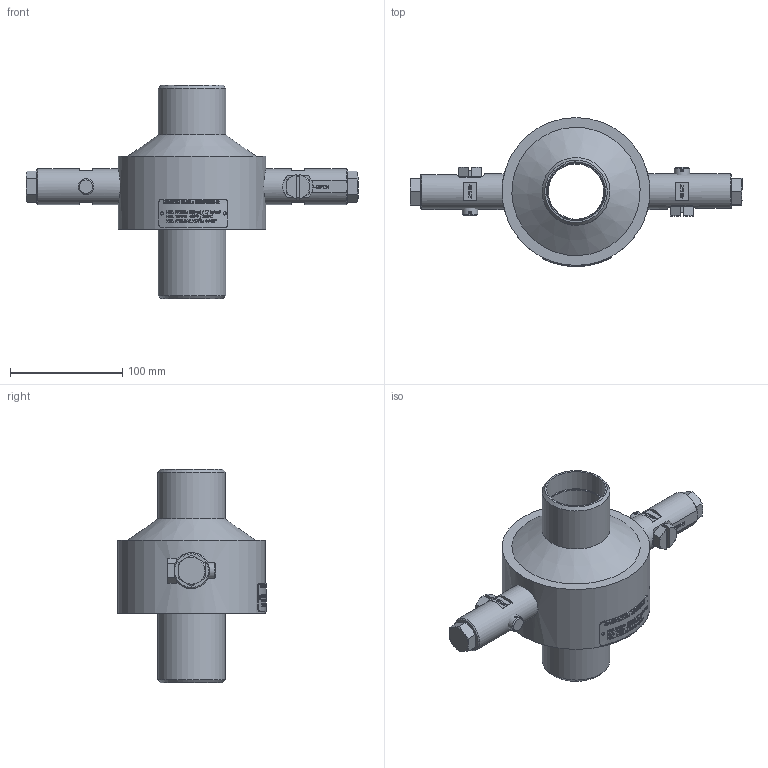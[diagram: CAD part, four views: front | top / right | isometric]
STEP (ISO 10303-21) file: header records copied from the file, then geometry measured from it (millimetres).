
FILE_DESCRIPTION(/* description */ (''),/* implementation_level */ '2;1');
FILE_NAME(/* name */ 'C:\001_Work\Designs\BALL JOINT\2 in Ball Joint Assem(Round PP).stp',/* time_stamp */ '2015-02-23T11:15:08-05:00',/* author */ ('mleuck'),/* organization */ (''),/* preprocessor_version */ 'ST-DEVELOPER v15.2',/* originating_system */ 'Autodesk Inventor 2014',/* authorisation */ '');
FILE_SCHEMA (('AUTOMOTIVE_DESIGN { 1 0 10303 214 3 1 1 }'));
Length unit declared in the file: inch
Products named in the file (15): BALL JOINT HOUSING-sm; BALL JOINT NIPPLE-sm; BALL JOINT THREADED RING-sm; BALL JOINT RING-sm; BALL JOINT-sm; (2 inch) Hard Packing; (2 inch) Soft Packing; ANSI B18.3.6M - M6x1 x 6(8); Plug-ROUND(long)-8-1-14; M14x1.5x35Long(FineThread)-shutoffvalve-(8-1-14); M16x2x30 Long-PackingBolt; IFI 512-S - 2.514; Plug Assem(NewRound)(long)(8-22-14); 2inch - decal; 2 in Ball Joint Assem(Round PP)
Bounding box: 295.77 x 132.56 x 190.49 mm (x, y, z)
Volume: 1062231.5 mm3; surface area: 295181.7 mm2
Topology: 20 solids, 20 shells, 1795 faces, 4742 edges, 3148 vertices
Faces by surface type: plane 893, bspline 658, cylinder 174, cone 61, sphere 5, torus 4
Full cylindrical faces by diameter (mm): 2.5 x2, 3.03 x2, 6 x6, 9 x2, 11.75 x2, 11.836 x2, 13.843 x2, 14 x2, 15 x2, 16 x2, 32 x4, 49.403 x1, 50.8 x1, 52.502 x2, 60.325 x2, 73.025 x1, 112.712 x1, 112.725 x5, 114.3 x2, 131.762 x1
Entity records: 61969 total; most frequent: CARTESIAN_POINT 26484, ORIENTED_EDGE 7930, DIRECTION 5289, EDGE_CURVE 3965, VERTEX_POINT 2666, LINE 1997, VECTOR 1997, EDGE_LOOP 1743
